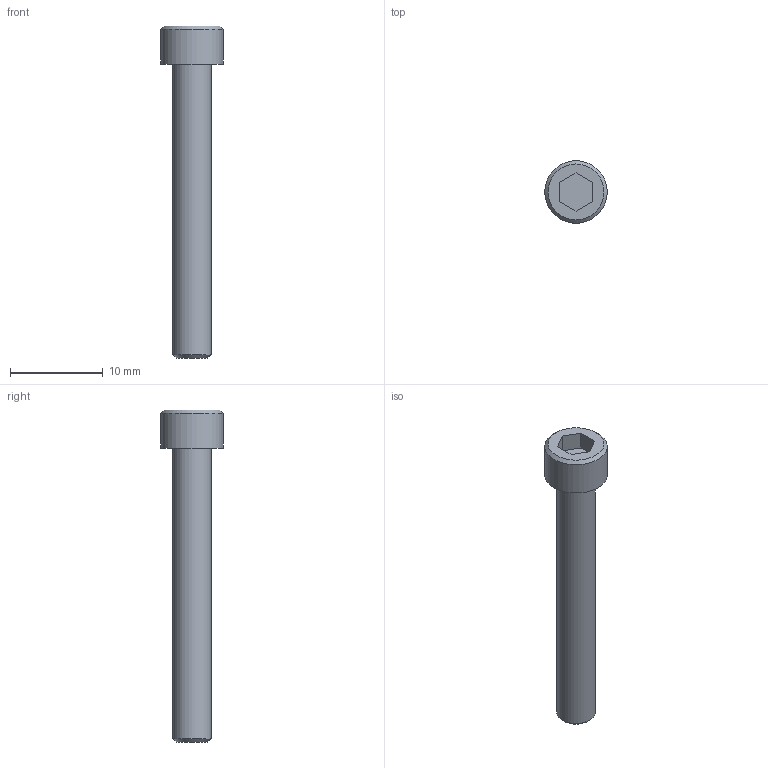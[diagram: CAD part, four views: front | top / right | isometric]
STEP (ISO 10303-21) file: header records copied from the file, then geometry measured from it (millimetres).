
FILE_DESCRIPTION((''),'2;1');
FILE_NAME('C:\Users\Stan\Desktop\import\SHCS 8-32 UNCx1.25.ipt.step','2011-08-18T17:45:32',(''),(''),'Autodesk Inventor 2012','Autodesk Inventor 2012','');
FILE_SCHEMA(('AUTOMOTIVE_DESIGN { 1 0 10303 214 1 1 1 1 }'));
Length unit declared in the file: inch
Products named in the file (1): SHCS 8-32 UNCx1.25
Bounding box: 6.76 x 6.76 x 35.86 mm (x, y, z)
Volume: 556.4 mm3; surface area: 591.3 mm2
Topology: 1 solids, 1 shells, 14 faces, 28 edges, 18 vertices
Faces by surface type: plane 10, cone 2, cylinder 2
Full cylindrical faces by diameter (mm): 4.166 x1, 6.756 x1
Entity records: 391 total; most frequent: DIRECTION 60, CARTESIAN_POINT 57, ORIENTED_EDGE 48, EDGE_CURVE 24, AXIS2_PLACEMENT_3D 21, EDGE_LOOP 20, VERTEX_POINT 18, VECTOR 18
